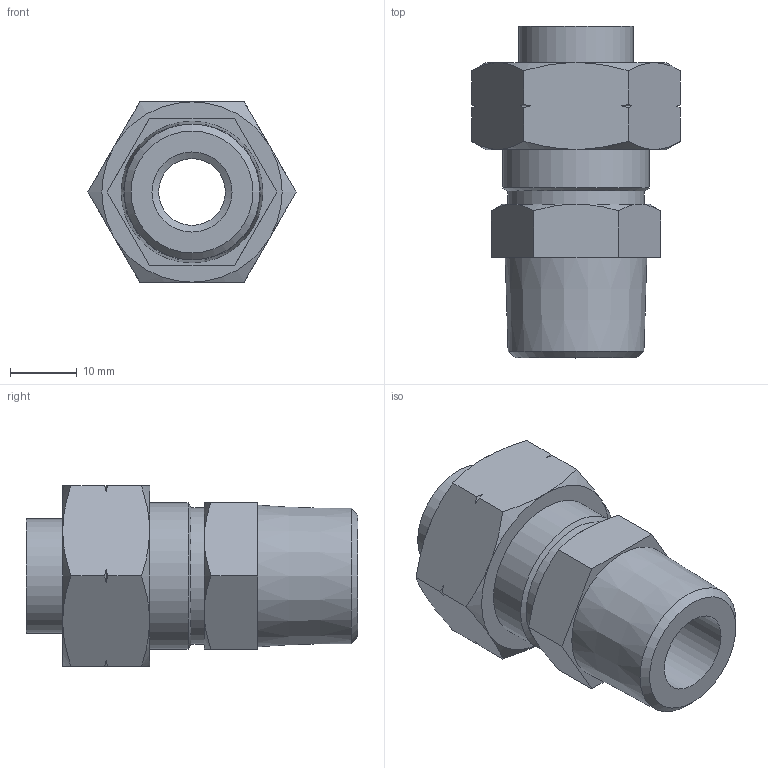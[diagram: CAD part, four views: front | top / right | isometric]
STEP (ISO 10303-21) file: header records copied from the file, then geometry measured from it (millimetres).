
FILE_DESCRIPTION((''),'2;1');
FILE_NAME('D:\INVENTOR\[New Inventor]\CDC Products 3D Ass''y\Two-Touch Fittings\Metric\CC\CC16-12--04.stp','2009-02-25T17:34:50',('Microsoft'),(''),'Autodesk Inventor 2008','Autodesk Inventor 2008','');
FILE_SCHEMA(('AUTOMOTIVE_DESIGN { 1 0 10303 214 1 1 1 1 }'));
Length unit declared in the file: millimetre
Products named in the file (1): CC16-12--04
Bounding box: 31.18 x 49.67 x 27 mm (x, y, z)
Volume: 13644 mm3; surface area: 7855.3 mm2
Topology: 1 solids, 1 shells, 62 faces, 138 edges, 84 vertices
Faces by surface type: cone 33, plane 20, cylinder 6, bspline 2, torus 1
Full cylindrical faces by diameter (mm): 10 x1, 11.8 x1, 16.2 x1, 17.1 x1, 20.5 x1, 22 x1
Entity records: 1628 total; most frequent: CARTESIAN_POINT 427, ORIENTED_EDGE 252, DIRECTION 230, EDGE_CURVE 126, AXIS2_PLACEMENT_3D 103, VERTEX_POINT 84, EDGE_LOOP 82, FACE_OUTER_BOUND 62
